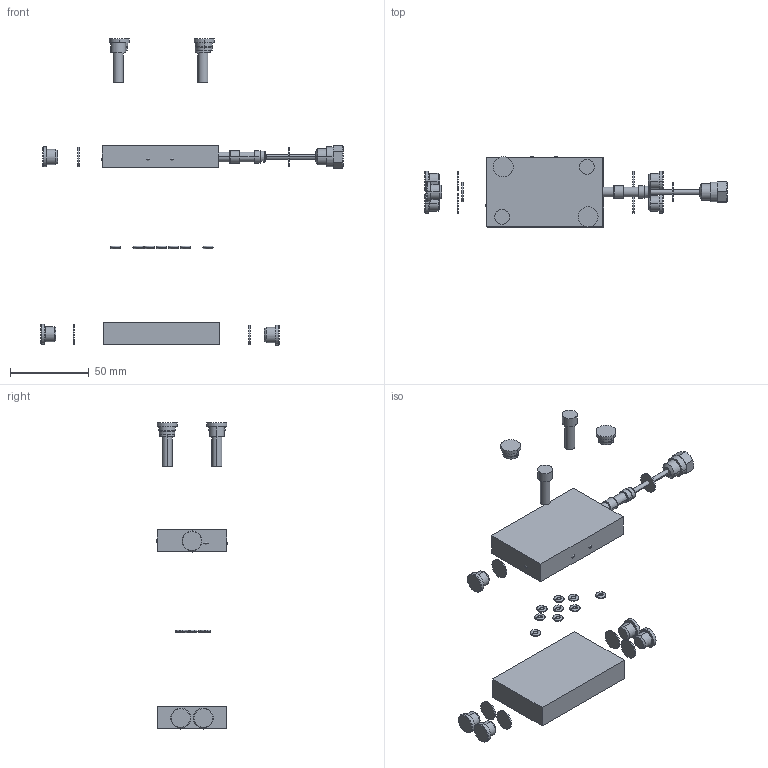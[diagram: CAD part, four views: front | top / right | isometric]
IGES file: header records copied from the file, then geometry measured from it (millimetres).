
Start section:  PTC IGES file: 562654-en-g.igs
Global section: file name: 562654-en-g.igs; native system: Creo Parametric by PTC Inc.; preprocessor: 2021072; author: qtmwp1; organization: Unknown; date: 20220214.140842; units: inch
Bounding box: 191.9 x 45.09 x 194.47 mm (x, y, z)
Surface area: 30915.7 mm2 (no closed solid volume)
Topology: 0 solids, 0 shells, 290 faces, 1050 edges, 1026 vertices
Faces by surface type: revolution 196, bspline 94
